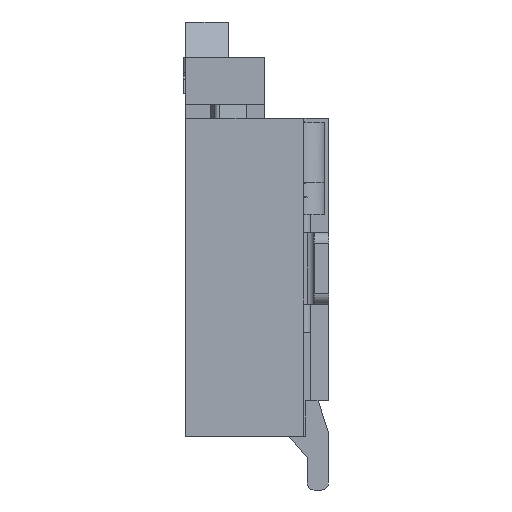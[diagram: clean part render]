
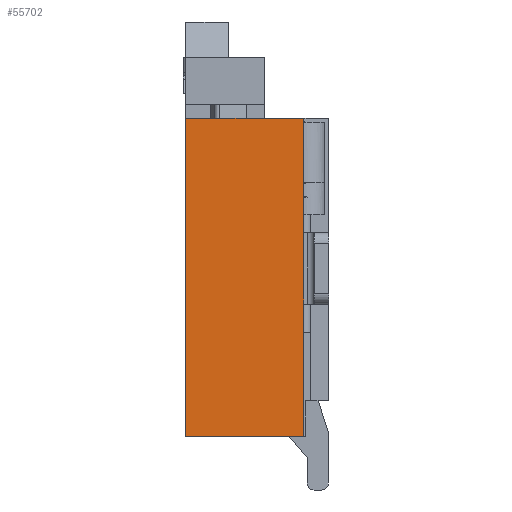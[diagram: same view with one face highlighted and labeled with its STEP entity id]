
A CAD part, left-side view. The second image highlights one B-rep face of the part: STEP entity #55702.
In plain terms, the highlighted planar face has unit normal (-1, 0, 0).
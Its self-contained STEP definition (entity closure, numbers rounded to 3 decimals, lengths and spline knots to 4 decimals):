
#5014=DIRECTION('',(0.,0.,-1.));
#5015=VECTOR('',#5014,4.45);
#5016=CARTESIAN_POINT('',(-11.25,0.35,-1.35));
#5017=LINE('',#5016,#5015);
#5018=DIRECTION('',(0.,1.,0.));
#5019=VECTOR('',#5018,1.65);
#5020=CARTESIAN_POINT('',(-11.25,0.35,-5.8));
#5021=LINE('',#5020,#5019);
#5022=DIRECTION('',(0.,0.,1.));
#5023=VECTOR('',#5022,4.45);
#5024=CARTESIAN_POINT('',(-11.25,2.,-5.8));
#5025=LINE('',#5024,#5023);
#5026=DIRECTION('',(0.,-1.,0.));
#5027=VECTOR('',#5026,1.65);
#5028=CARTESIAN_POINT('',(-11.25,2.,-1.35));
#5029=LINE('',#5028,#5027);
#37732=CARTESIAN_POINT('',(-11.25,2.,-5.8));
#37734=VERTEX_POINT('',#37732);
#37736=CARTESIAN_POINT('',(-11.25,0.35,-5.8));
#37737=VERTEX_POINT('',#37736);
#38126=CARTESIAN_POINT('',(-11.25,2.,-1.35));
#38127=VERTEX_POINT('',#38126);
#40093=CARTESIAN_POINT('',(-11.25,0.35,-1.35));
#40094=VERTEX_POINT('',#40093);
#55690=CARTESIAN_POINT('',(-11.25,1.175,-3.575));
#55691=DIRECTION('',(1.,0.,0.));
#55692=DIRECTION('',(0.,0.,-1.));
#55693=AXIS2_PLACEMENT_3D('',#55690,#55691,#55692);
#55694=PLANE('',#55693);
#55695=ORIENTED_EDGE('',*,*,#55679,.T.);
#55696=ORIENTED_EDGE('',*,*,#49096,.T.);
#55697=ORIENTED_EDGE('',*,*,#49506,.T.);
#55699=ORIENTED_EDGE('',*,*,#55698,.T.);
#55700=EDGE_LOOP('',(#55695,#55696,#55697,#55699));
#55701=FACE_OUTER_BOUND('',#55700,.F.);
#49096=EDGE_CURVE('',#37737,#37734,#5021,.T.);
#49506=EDGE_CURVE('',#37734,#38127,#5025,.T.);
#55679=EDGE_CURVE('',#40094,#37737,#5017,.T.);
#55698=EDGE_CURVE('',#38127,#40094,#5029,.T.);
#55702=ADVANCED_FACE('',(#55701),#55694,.F.);
